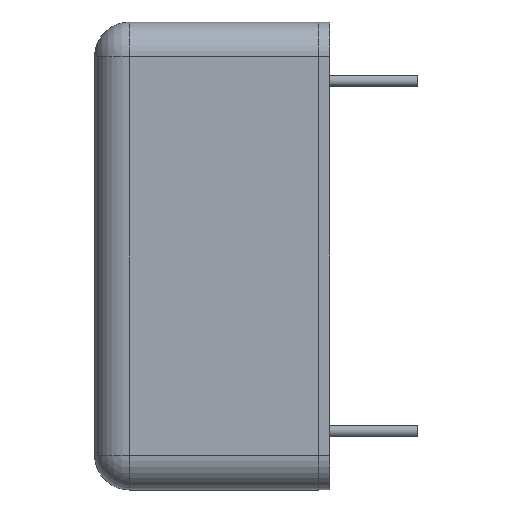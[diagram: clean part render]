
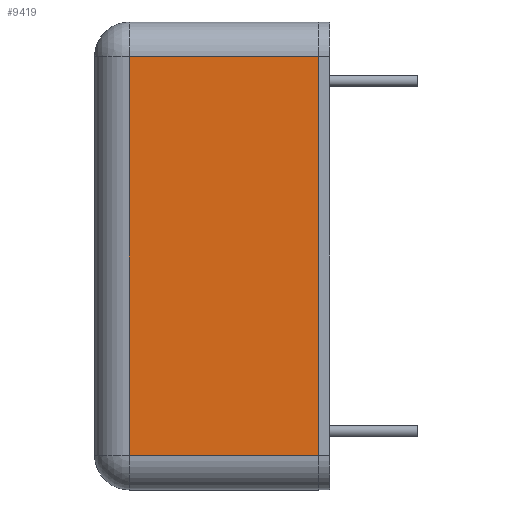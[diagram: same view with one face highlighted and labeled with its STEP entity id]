
A CAD part, left-side view. The second image highlights one B-rep face of the part: STEP entity #9419.
In plain terms, the highlighted planar face has unit normal (-1, 0, 0) as drawn and (0, 0, 1) by its records, which use the part's own axes.
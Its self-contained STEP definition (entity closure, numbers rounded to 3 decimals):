
#378 = CARTESIAN_POINT ( 'NONE',  ( -8.65, 9.7, 15.9 ) ) ;
#379 = LINE ( 'NONE', #378, #563 ) ;
#557 = DIRECTION ( 'NONE',  ( 0., -1., 0. ) ) ;
#563 = VECTOR ( 'NONE', #557, 1000. ) ;
#967 = CARTESIAN_POINT ( 'NONE',  ( -8.65, 8.2, 15.9 ) ) ;
#968 = CARTESIAN_POINT ( 'NONE',  ( 8.65, 8.2, 15.9 ) ) ;
#969 = DIRECTION ( 'NONE',  ( -1., 0., 0. ) ) ;
#970 = VECTOR ( 'NONE', #969, 1000. ) ;
#971 = CARTESIAN_POINT ( 'NONE',  ( -10.15, 8.2, 15.9 ) ) ;
#972 = DIRECTION ( 'NONE',  ( -1., 0., 0. ) ) ;
#973 = DIRECTION ( 'NONE',  ( 0., 0., -1. ) ) ;
#974 = CARTESIAN_POINT ( 'NONE',  ( -10.15, 9.7, 15.9 ) ) ;
#975 = LINE ( 'NONE', #971, #970 ) ;
#976 = AXIS2_PLACEMENT_3D ( 'NONE', #974, #973, #972 ) ;
#977 = FACE_OUTER_BOUND ( 'NONE', #9420, .T. ) ;
#981 = PLANE ( 'NONE',  #976 ) ;
#1018 = DIRECTION ( 'NONE',  ( 0., 1., 0. ) ) ;
#1019 = VECTOR ( 'NONE', #1018, 1000. ) ;
#1020 = CARTESIAN_POINT ( 'NONE',  ( 8.65, 9.7, 15.9 ) ) ;
#1021 = LINE ( 'NONE', #1020, #1019 ) ;
#1022 = CARTESIAN_POINT ( 'NONE',  ( 8.65, 0., 15.9 ) ) ;
#1023 = DIRECTION ( 'NONE',  ( 1., 0., 0. ) ) ;
#1024 = VECTOR ( 'NONE', #1023, 1000. ) ;
#1025 = CARTESIAN_POINT ( 'NONE',  ( -10.15, 0., 15.9 ) ) ;
#1026 = LINE ( 'NONE', #1025, #1024 ) ;
#1027 = CARTESIAN_POINT ( 'NONE',  ( -8.65, 0., 15.9 ) ) ;
#9419 = ADVANCED_FACE ( 'NONE', ( #977 ), #981, .F. ) ;
#9420 = EDGE_LOOP ( 'NONE', ( #9421, #9425, #9428, #9431 ) ) ;
#9421 = ORIENTED_EDGE ( 'NONE', *, *, #9422, .T. ) ;
#9422 = EDGE_CURVE ( 'NONE', #9423, #9424, #975, .T. ) ;
#9423 = VERTEX_POINT ( 'NONE', #968 ) ;
#9424 = VERTEX_POINT ( 'NONE', #967 ) ;
#9425 = ORIENTED_EDGE ( 'NONE', *, *, #9426, .T. ) ;
#9426 = EDGE_CURVE ( 'NONE', #9424, #9427, #379, .T. ) ;
#9427 = VERTEX_POINT ( 'NONE', #1027 ) ;
#9428 = ORIENTED_EDGE ( 'NONE', *, *, #9429, .T. ) ;
#9429 = EDGE_CURVE ( 'NONE', #9427, #9430, #1026, .T. ) ;
#9430 = VERTEX_POINT ( 'NONE', #1022 ) ;
#9431 = ORIENTED_EDGE ( 'NONE', *, *, #9432, .T. ) ;
#9432 = EDGE_CURVE ( 'NONE', #9430, #9423, #1021, .T. ) ;
